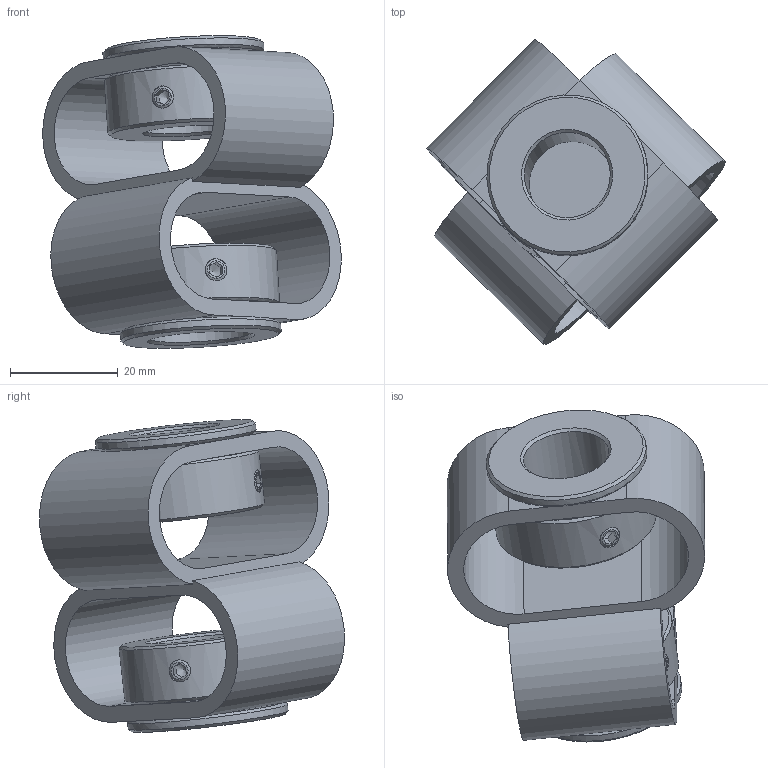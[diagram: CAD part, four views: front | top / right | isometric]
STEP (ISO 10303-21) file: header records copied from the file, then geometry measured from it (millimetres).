
FILE_DESCRIPTION(/* description */ (''),/* implementation_level */ '2;1');
FILE_NAME(/* name */ 'E:\ABP_bauteile\Doppelschlaufenkupplung\DKPS_5658\Doppelschlaufenkupplung_DKPS_5658_16_19.stp',/* time_stamp */ '2015-03-13T11:56:07+01:00',/* author */ ('Rob'),/* organization */ (''),/* preprocessor_version */ 'ST-DEVELOPER v15.6',/* originating_system */ 'Autodesk Inventor 2015',/* authorisation */ '');
FILE_SCHEMA (('CONFIG_CONTROL_DESIGN'));
Length unit declared in the file: millimetre
Products named in the file (1): Bauteil60
Bounding box: 55.53 x 56.74 x 58.16 mm (x, y, z)
Volume: 28902.9 mm3; surface area: 18024.2 mm2
Topology: 1 solids, 1 shells, 142 faces, 360 edges, 218 vertices
Faces by surface type: plane 84, cone 30, cylinder 28
Full cylindrical faces by diameter (mm): 4.134 x8, 16 x1, 19 x1, 21.5 x2, 23 x4, 30 x4
Entity records: 4088 total; most frequent: CARTESIAN_POINT 1027, DIRECTION 646, ORIENTED_EDGE 556, EDGE_CURVE 278, AXIS2_PLACEMENT_3D 257, EDGE_LOOP 210, VERTEX_POINT 182, FACE_OUTER_BOUND 142
